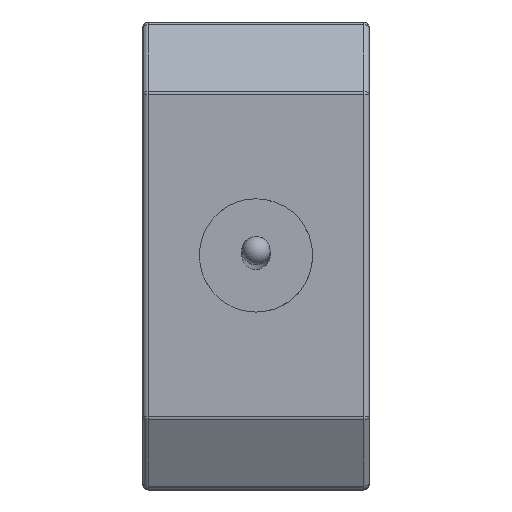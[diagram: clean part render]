
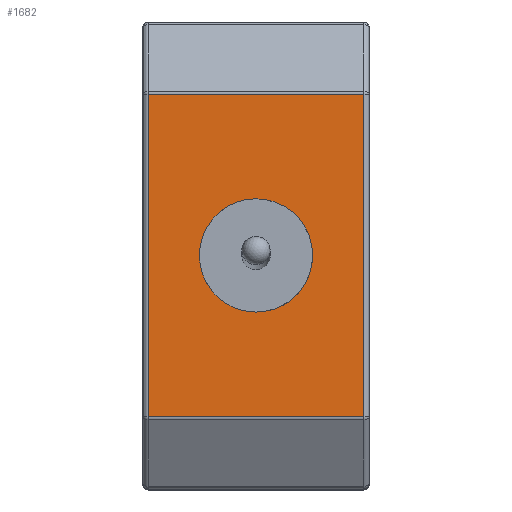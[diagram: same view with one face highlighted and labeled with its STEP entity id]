
A CAD part, top view. The second image highlights one B-rep face of the part: STEP entity #1682.
In plain terms, the highlighted planar face has unit normal (0, 0, 1).
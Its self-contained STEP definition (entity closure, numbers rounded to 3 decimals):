
#99 = ORIENTED_EDGE ( 'NONE', *, *, #3700, .T. ) ;
#114 = LINE ( 'NONE', #3336, #3892 ) ;
#151 = ORIENTED_EDGE ( 'NONE', *, *, #3130, .T. ) ;
#259 = VECTOR ( 'NONE', #678, 1000. ) ;
#293 = CARTESIAN_POINT ( 'NONE',  ( -3.8, -34.408, -18.561 ) ) ;
#399 = CARTESIAN_POINT ( 'NONE',  ( 0., -42.103, -18.561 ) ) ;
#439 = VERTEX_POINT ( 'NONE', #293 ) ;
#445 = ORIENTED_EDGE ( 'NONE', *, *, #962, .T. ) ;
#676 = CARTESIAN_POINT ( 'NONE',  ( -3.8, -45.797, -18.561 ) ) ;
#678 = DIRECTION ( 'NONE',  ( 0., -1., 0. ) ) ;
#812 = VECTOR ( 'NONE', #4115, 1000. ) ;
#839 = VERTEX_POINT ( 'NONE', #1970 ) ;
#898 = CARTESIAN_POINT ( 'NONE',  ( 4., -31.853, -18.561 ) ) ;
#962 = EDGE_CURVE ( 'NONE', #839, #1606, #114, .T. ) ;
#1031 = ORIENTED_EDGE ( 'NONE', *, *, #3958, .F. ) ;
#1214 = FACE_BOUND ( 'NONE', #2092, .T. ) ;
#1269 = CARTESIAN_POINT ( 'NONE',  ( 4., -34.408, -18.561 ) ) ;
#1533 = CARTESIAN_POINT ( 'NONE',  ( 3.8, -34.408, -18.561 ) ) ;
#1591 = AXIS2_PLACEMENT_3D ( 'NONE', #3429, #1848, #3722 ) ;
#1606 = VERTEX_POINT ( 'NONE', #1533 ) ;
#1682 = ADVANCED_FACE ( 'NONE', ( #1214, #3427 ), #3740, .F. ) ;
#1848 = DIRECTION ( 'NONE',  ( 0., 0., 1. ) ) ;
#1931 = CARTESIAN_POINT ( 'NONE',  ( 4., -45.797, -18.561 ) ) ;
#1970 = CARTESIAN_POINT ( 'NONE',  ( 3.8, -45.797, -18.561 ) ) ;
#1982 = EDGE_LOOP ( 'NONE', ( #151, #99, #3637, #445 ) ) ;
#2092 = EDGE_LOOP ( 'NONE', ( #1031 ) ) ;
#2163 = DIRECTION ( 'NONE',  ( 0., 0., -1. ) ) ;
#2206 = EDGE_CURVE ( 'NONE', #3005, #839, #3822, .T. ) ;
#2255 = LINE ( 'NONE', #3519, #259 ) ;
#2326 = CIRCLE ( 'NONE', #1591, 2. ) ;
#2381 = DIRECTION ( 'NONE',  ( 0., 1., 0. ) ) ;
#2582 = DIRECTION ( 'NONE',  ( -1., 0., 0. ) ) ;
#3005 = VERTEX_POINT ( 'NONE', #676 ) ;
#3123 = VECTOR ( 'NONE', #2582, 1000. ) ;
#3130 = EDGE_CURVE ( 'NONE', #1606, #439, #3462, .T. ) ;
#3153 = AXIS2_PLACEMENT_3D ( 'NONE', #898, #2163, #3851 ) ;
#3336 = CARTESIAN_POINT ( 'NONE',  ( 3.8, -34.353, -18.561 ) ) ;
#3427 = FACE_OUTER_BOUND ( 'NONE', #1982, .T. ) ;
#3429 = CARTESIAN_POINT ( 'NONE',  ( 0., -40.103, -18.561 ) ) ;
#3462 = LINE ( 'NONE', #1269, #3123 ) ;
#3519 = CARTESIAN_POINT ( 'NONE',  ( -3.8, -31.853, -18.561 ) ) ;
#3555 = VERTEX_POINT ( 'NONE', #399 ) ;
#3637 = ORIENTED_EDGE ( 'NONE', *, *, #2206, .T. ) ;
#3700 = EDGE_CURVE ( 'NONE', #439, #3005, #2255, .T. ) ;
#3722 = DIRECTION ( 'NONE',  ( 0., -1., 0. ) ) ;
#3740 = PLANE ( 'NONE',  #3153 ) ;
#3822 = LINE ( 'NONE', #1931, #812 ) ;
#3851 = DIRECTION ( 'NONE',  ( 0., 1., 0. ) ) ;
#3892 = VECTOR ( 'NONE', #2381, 1000. ) ;
#3958 = EDGE_CURVE ( 'NONE', #3555, #3555, #2326, .T. ) ;
#4115 = DIRECTION ( 'NONE',  ( 1., 0., 0. ) ) ;
